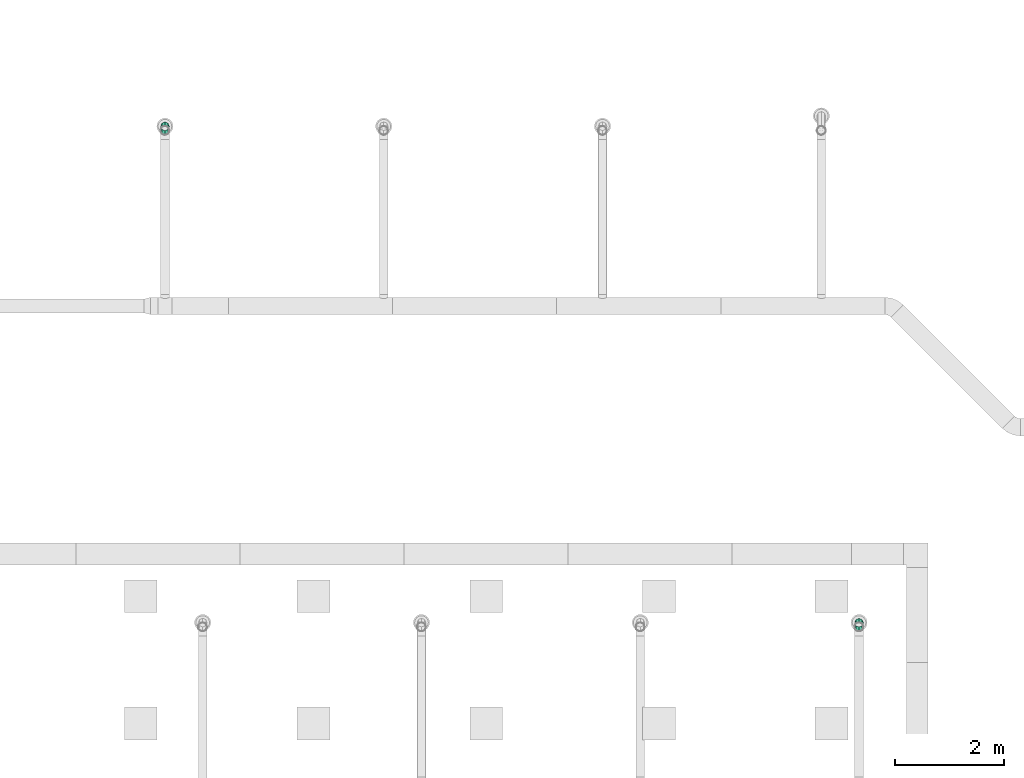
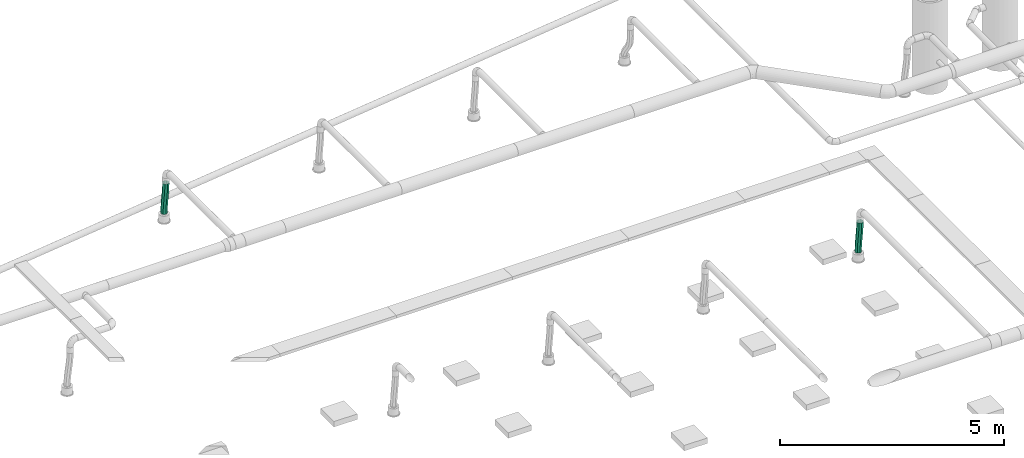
# One storey, part 242 of 374: 2 flow segments.
"""IFC2X3 building model written with IfcOpenShell, lengths in metres."""

from ifc_helpers import new_model, si_unit, direction, origin, place, context, subcontext, project, spatial, open_shell, surface_model, source, transform, mapped, element, save


model = new_model("IFC2X3")

# Units and contexts
model_context = context("Model", 3, precision=1e-05, world=origin(), true_north=direction((-0.4480736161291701, 0.8939966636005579)))
body_context = subcontext(model_context, "Body", "Model", "MODEL_VIEW")
ifc_project = project(units=[si_unit("LENGTHUNIT", "METRE"), si_unit("AREAUNIT", "SQUARE_METRE"), si_unit("VOLUMEUNIT", "CUBIC_METRE"), si_unit("PLANEANGLEUNIT", "RADIAN"), si_unit("THERMODYNAMICTEMPERATUREUNIT", "KELVIN"), si_unit("MASSUNIT", "GRAM", prefix="KILO"), si_unit("TIMEUNIT", "SECOND")], contexts=[model_context])

# Site, building, storey
site_placement = place(None, origin())
site = spatial("IfcSite", under=ifc_project, at=site_placement, Name="Site 1", CompositionType="ELEMENT")
building_placement = place(site_placement, origin())
building = spatial("IfcBuilding", under=site, at=building_placement, Name="Undefined", CompositionType="ELEMENT")
storey_placement = place(building_placement, origin())
storey = spatial("IfcBuildingStorey", under=building, at=storey_placement, Name="Rez de chauss\x8ee", CompositionType="ELEMENT", Elevation=0.0)

# Flow segments
shared_shape_1 = source(origin(), body_context, "Body", "SurfaceModel", [
    surface_model("IfcFaceBasedSurfaceModel", [(0.09425707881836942, -3.552713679e-15, 0.0), (0.05356602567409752, 0.04575228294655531, 0.0), (0.0, 0.0, 0.0), (0.03894014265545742, -0.04725143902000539, -1.1507813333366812e-06), (-0.05541274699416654, -0.04404153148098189, 0.001035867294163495), (-0.017993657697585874, -0.092506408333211, 0.0010617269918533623), (-0.11243304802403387, -0.08679100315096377, 0.002911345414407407), (-0.07622094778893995, -0.13616420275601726, 0.0029758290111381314), (-0.1707571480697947, -0.12862219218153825, 0.005426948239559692), (-0.13541835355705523, -0.17862411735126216, 0.00552835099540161), (-0.2300733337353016, -0.16991459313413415, 0.008379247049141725), (-0.19526250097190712, -0.22028544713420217, 0.008506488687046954), (-0.29006425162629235, -0.21105506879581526, 0.011560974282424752), (-0.2554300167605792, -0.26154748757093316, 0.011697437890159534), (-0.35040837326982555, -0.25243868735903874, 0.014761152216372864), (-0.3155975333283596, -0.30280953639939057, 0.014888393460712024), (-0.41078048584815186, -0.2944689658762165, 0.017765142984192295), (-0.3754416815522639, -0.34447088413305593, 0.017866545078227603), (-0.4708511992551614, -0.33755762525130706, 0.020354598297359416), (-0.43463909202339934, -0.3869308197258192, 0.02041908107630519), (-0.5302854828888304, -0.3821237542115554, 0.022307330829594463), (-0.49286639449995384, -0.43058863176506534, 0.022333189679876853), (-0.5887403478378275, -0.42859215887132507, 0.02339721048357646), (-0.5498002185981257, -0.4758436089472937, 0.023396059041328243), (-0.6458082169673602, -0.47734273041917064, 0.02339487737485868), (-0.605117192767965, -0.5230950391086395, 0.023394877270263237), (0.025061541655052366, 0.07834277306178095, -0.04329419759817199), (-0.027779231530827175, 0.033211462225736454, -0.043293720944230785), (-0.08256193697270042, -0.010327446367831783, -0.04226904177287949), (-0.1390822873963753, -0.052700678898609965, -0.04040956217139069), (-0.1970446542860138, -0.09427144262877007, -0.037909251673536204), (-0.25614215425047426, -0.13541103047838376, -0.03496765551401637), (-0.3160599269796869, -0.17650115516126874, -0.03178974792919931), (-0.3764772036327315, -0.2179351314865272, -0.028585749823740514), (-0.4370680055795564, -0.2601182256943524, -0.0255710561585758), (-0.49750044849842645, -0.3034673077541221, -0.022966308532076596), (-0.5574346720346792, -0.34840966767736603, -0.020997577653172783), (-0.6165195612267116, -0.3953806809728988, -0.0198965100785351), (-0.6743126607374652, -0.4447522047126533, -0.019899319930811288), (0.025441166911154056, 0.0786804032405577, -0.10452143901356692), (-0.028124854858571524, 0.03292812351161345, -0.10452143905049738), (-0.08353760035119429, -0.011113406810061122, -0.10348557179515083), (-0.1405579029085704, -0.05386287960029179, -0.10161009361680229), (-0.19888200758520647, -0.09569407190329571, -0.09909449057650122), (-0.2581982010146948, -0.13698647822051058, -0.09614219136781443), (-0.31818912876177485, -0.1781269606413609, -0.0929604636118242), (-0.37853325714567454, -0.21951058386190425, -0.08976028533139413), (-0.4389053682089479, -0.26154086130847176, -0.08675629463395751), (-0.49897607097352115, -0.304629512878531, -0.08416683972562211), (-0.5584103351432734, -0.3491956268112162, -0.08221410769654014), (-0.6168651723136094, -0.39566400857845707, -0.08112422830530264), (-0.673933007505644, -0.44441454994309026, -0.08112656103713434), (0.05448252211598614, 0.04656739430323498, -0.14781563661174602), (-0.0008344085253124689, -0.0006840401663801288, -0.14781678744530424), (-0.05776820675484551, -0.04593900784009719, -0.14675390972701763), (-0.11599549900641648, -0.08959680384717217, -0.1448398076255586), (-0.1751929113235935, -0.13205672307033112, -0.14228728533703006), (-0.23503706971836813, -0.17371806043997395, -0.1393091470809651), (-0.2952045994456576, -0.2149801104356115, -0.13611819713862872), (-0.35537212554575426, -0.25624216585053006, -0.1329272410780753), (-0.4152162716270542, -0.29790351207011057, -0.1299490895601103), (-0.47441366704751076, -0.340363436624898, -0.12739655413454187), (-0.5326409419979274, -0.3840212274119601, -0.12548244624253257), (-0.5895747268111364, -0.4292761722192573, -0.1244195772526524), (-0.6448916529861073, -0.4765275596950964, -0.1244207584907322), (0.09517357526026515, 0.0008151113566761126, -0.14781563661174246), (0.038105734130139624, -0.047935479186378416, -0.14781793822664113), (-0.020349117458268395, -0.09440388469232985, -0.1467280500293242), (-0.07978339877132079, -0.1389700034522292, -0.14477532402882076), (-0.13985411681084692, -0.18205864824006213, -0.14218588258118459), (-0.20022623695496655, -0.22408891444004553, -0.13918190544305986), (-0.260570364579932, -0.2654725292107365, -0.13598173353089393), (-0.3205612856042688, -0.3066130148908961, -0.13279999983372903), (-0.3798774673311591, -0.3479054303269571, -0.129847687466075), (-0.4382015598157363, -0.38973663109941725, -0.1273320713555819), (-0.4952218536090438, -0.4324861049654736, -0.12545658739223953), (-0.5506345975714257, -0.47652762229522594, -0.12442072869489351), (-0.604200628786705, -0.5222798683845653, -0.12442075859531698), (0.1236780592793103, -0.03177537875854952, -0.10452143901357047), (0.06588496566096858, -0.08114694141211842, -0.1045242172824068), (0.006800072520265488, -0.12811796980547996, -0.10342314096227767), (-0.05313415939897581, -0.17306032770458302, -0.10145441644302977), (-0.11356661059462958, -0.21640939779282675, -0.09884968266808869), (-0.1741574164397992, -0.25859247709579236, -0.09583500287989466), (-0.2345746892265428, -0.3000264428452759, -0.09263101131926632), (-0.29449245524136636, -0.3411165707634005, -0.08945309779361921), (-0.3535899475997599, -0.3822561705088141, -0.0865114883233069), (-0.4115523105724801, -0.42382694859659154, -0.08401116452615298), (-0.46807266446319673, -0.4662001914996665, -0.08215167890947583), (-0.522855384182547, -0.5097391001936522, -0.08112700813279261), (-0.5756961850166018, -0.5548703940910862, -0.08112656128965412), (0.12329843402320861, -0.03211300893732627, -0.04329419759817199), (0.0662305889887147, -0.08086360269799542, -0.0432964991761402), (0.0077757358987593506, -0.12733200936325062, -0.04220661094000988), (-0.05165854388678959, -0.1718981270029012, -0.04025388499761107), (-0.11172925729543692, -0.21498676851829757, -0.037664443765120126), (-0.17210136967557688, -0.2570170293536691, -0.03466046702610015), (-0.23244548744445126, -0.29840063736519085, -0.031460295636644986), (-0.2924364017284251, -0.3395411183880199, -0.02827856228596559), (-0.3517525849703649, -0.38083353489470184, -0.025326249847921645), (-0.41007668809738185, -0.42266474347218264, -0.022810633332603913), (-0.46709700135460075, -0.4654142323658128, -0.020935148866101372), (-0.5225097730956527, -0.5094557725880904, -0.01989928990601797), (-0.5760758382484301, -0.555208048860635, -0.019899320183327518)], [open_shell([[[0, 1, 2]], [[2, 3, 0]], [[3, 2, 4]], [[4, 5, 3]], [[5, 4, 6]], [[6, 7, 5]], [[7, 6, 8]], [[8, 9, 7]], [[9, 8, 10]], [[10, 11, 9]], [[11, 10, 12]], [[12, 13, 11]], [[13, 12, 14]], [[14, 15, 13]], [[15, 14, 16]], [[16, 17, 15]], [[17, 16, 18]], [[18, 19, 17]], [[19, 18, 20]], [[20, 21, 19]], [[21, 20, 22]], [[22, 23, 21]], [[23, 22, 24]], [[24, 25, 23]], [[1, 26, 27]], [[27, 2, 1]], [[2, 27, 28]], [[28, 4, 2]], [[4, 28, 29]], [[29, 6, 4]], [[6, 29, 30]], [[30, 8, 6]], [[8, 30, 31]], [[31, 10, 8]], [[10, 31, 32]], [[32, 12, 10]], [[12, 32, 33]], [[33, 14, 12]], [[14, 33, 34]], [[34, 16, 14]], [[16, 34, 35]], [[35, 18, 16]], [[18, 35, 36]], [[36, 20, 18]], [[20, 36, 37]], [[37, 22, 20]], [[22, 37, 38]], [[38, 24, 22]], [[26, 39, 40]], [[40, 27, 26]], [[27, 40, 41]], [[41, 28, 27]], [[28, 41, 42]], [[42, 29, 28]], [[29, 42, 43]], [[43, 30, 29]], [[30, 43, 44]], [[44, 31, 30]], [[31, 44, 45]], [[45, 32, 31]], [[32, 45, 46]], [[46, 33, 32]], [[33, 46, 47]], [[47, 34, 33]], [[34, 47, 48]], [[48, 35, 34]], [[35, 48, 49]], [[49, 36, 35]], [[36, 49, 50]], [[50, 37, 36]], [[37, 50, 51]], [[51, 38, 37]], [[39, 52, 53]], [[53, 40, 39]], [[40, 53, 54]], [[54, 41, 40]], [[41, 54, 55]], [[55, 42, 41]], [[42, 55, 56]], [[56, 43, 42]], [[43, 56, 57]], [[57, 44, 43]], [[44, 57, 58]], [[58, 45, 44]], [[45, 58, 59]], [[59, 46, 45]], [[46, 59, 60]], [[60, 47, 46]], [[47, 60, 61]], [[61, 48, 47]], [[48, 61, 62]], [[62, 49, 48]], [[49, 62, 63]], [[63, 50, 49]], [[50, 63, 64]], [[64, 51, 50]], [[52, 65, 66]], [[66, 53, 52]], [[53, 66, 67]], [[67, 54, 53]], [[54, 67, 68]], [[68, 55, 54]], [[55, 68, 69]], [[69, 56, 55]], [[56, 69, 70]], [[70, 57, 56]], [[57, 70, 71]], [[71, 58, 57]], [[58, 71, 72]], [[72, 59, 58]], [[59, 72, 73]], [[73, 60, 59]], [[60, 73, 74]], [[74, 61, 60]], [[61, 74, 75]], [[75, 62, 61]], [[62, 75, 76]], [[76, 63, 62]], [[63, 76, 77]], [[77, 64, 63]], [[65, 78, 79]], [[79, 66, 65]], [[66, 79, 80]], [[80, 67, 66]], [[67, 80, 81]], [[81, 68, 67]], [[68, 81, 82]], [[82, 69, 68]], [[69, 82, 83]], [[83, 70, 69]], [[70, 83, 84]], [[84, 71, 70]], [[71, 84, 85]], [[85, 72, 71]], [[72, 85, 86]], [[86, 73, 72]], [[73, 86, 87]], [[87, 74, 73]], [[74, 87, 88]], [[88, 75, 74]], [[75, 88, 89]], [[89, 76, 75]], [[76, 89, 90]], [[90, 77, 76]], [[78, 91, 92]], [[92, 79, 78]], [[79, 92, 93]], [[93, 80, 79]], [[80, 93, 94]], [[94, 81, 80]], [[81, 94, 95]], [[95, 82, 81]], [[82, 95, 96]], [[96, 83, 82]], [[83, 96, 97]], [[97, 84, 83]], [[84, 97, 98]], [[98, 85, 84]], [[85, 98, 99]], [[99, 86, 85]], [[86, 99, 100]], [[100, 87, 86]], [[87, 100, 101]], [[101, 88, 87]], [[88, 101, 102]], [[102, 89, 88]], [[89, 102, 103]], [[103, 90, 89]], [[91, 0, 3]], [[3, 92, 91]], [[92, 3, 5]], [[5, 93, 92]], [[93, 5, 7]], [[7, 94, 93]], [[94, 7, 9]], [[9, 95, 94]], [[95, 9, 11]], [[11, 96, 95]], [[96, 11, 13]], [[13, 97, 96]], [[97, 13, 15]], [[15, 98, 97]], [[98, 15, 17]], [[17, 99, 98]], [[99, 17, 19]], [[19, 100, 99]], [[100, 19, 21]], [[21, 101, 100]], [[101, 21, 23]], [[23, 102, 101]], [[102, 23, 25]], [[25, 103, 102]]])]),
])
flow_segment_1_placement = place(storey_placement, origin())
element("IfcFlowSegment", 1, at=flow_segment_1_placement, inside=storey, Name="Tube flexible", ObjectType="Tube flexible", context=body_context, shape_type="MappedRepresentation", body=[
    mapped(shared_shape_1, transform((26.923485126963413, 16.93339267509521, 3.4095708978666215), x_axis=(-0.24859097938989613, -0.6163532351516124, 0.7472022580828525), y_axis=(0.2910462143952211, 0.6882384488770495, 0.6645449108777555), z_axis=(-0.9238477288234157, 0.38267025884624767, 0.008297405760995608))),
])
shared_shape_2 = source(origin(), body_context, "Body", "SurfaceModel", [
    surface_model("IfcFaceBasedSurfaceModel", [(0.09425707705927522, 0.0, -8.8817842e-16), (0.05356602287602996, 0.04575228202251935, -8.8817842e-16), (0.0, 0.0, 0.0), (0.03894014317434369, -0.04725143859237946, -1.1508235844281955e-06), (-0.055412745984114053, -0.04404153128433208, 0.0010358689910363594), (-0.0179936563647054, -0.09250640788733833, 0.001061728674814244), (-0.11243304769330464, -0.08679100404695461, 0.0029113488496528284), (-0.07622094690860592, -0.13616420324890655, 0.0029758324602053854), (-0.1707571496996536, -0.12862219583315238, 0.005426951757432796), (-0.13541835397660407, -0.17862412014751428, 0.0055283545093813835), (-0.23007333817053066, -0.16991460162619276, 0.008379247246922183), (-0.19526250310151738, -0.22028545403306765, 0.0085064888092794), (-0.2900642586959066, -0.21105508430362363, 0.011560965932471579), (-0.25543002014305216, -0.26154750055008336, 0.011697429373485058), (-0.35040837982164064, -0.25243871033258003, 0.014761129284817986), (-0.3155975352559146, -0.3028095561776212, 0.014888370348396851), (-0.41078048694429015, -0.294468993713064, 0.017765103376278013), (-0.37544167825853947, -0.34447090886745, 0.01786650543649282), (-0.4708511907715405, -0.33755765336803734, 0.020354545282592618), (-0.4346390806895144, -0.3869308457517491, 0.020419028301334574), (-0.5302854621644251, -0.3821237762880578, 0.022307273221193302), (-0.49286637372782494, -0.43058865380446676, 0.022333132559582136), (-0.5887403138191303, -0.4285921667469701, 0.02339716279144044), (-0.5498001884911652, -0.47584362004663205, 0.02339601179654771), (-0.645808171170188, -0.4773427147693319, 0.02339485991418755), (-0.6051171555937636, -0.5230950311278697, 0.02339485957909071), (0.025061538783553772, 0.0783427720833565, -0.0432941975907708), (-0.027779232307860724, 0.03321146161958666, -0.04329372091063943), (-0.0825619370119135, -0.010327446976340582, -0.04226904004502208), (-0.13908228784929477, -0.052700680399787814, -0.040409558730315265), (-0.1970446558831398, -0.09427144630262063, -0.037909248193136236), (-0.25614215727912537, -0.13541103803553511, -0.0349676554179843), (-0.31605993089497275, -0.1765011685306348, -0.03178975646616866), (-0.3764772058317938, -0.21793515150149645, -0.028585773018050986), (-0.43706800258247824, -0.2601182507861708, -0.025571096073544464), (-0.49750043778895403, -0.30346733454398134, -0.02296636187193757), (-0.5574346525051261, -0.34840969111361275, -0.020997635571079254), (-0.6165195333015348, -0.3953806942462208, -0.019896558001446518), (-0.6743126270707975, -0.4447521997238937, -0.019899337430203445), (0.025441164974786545, 0.0786804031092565, -0.10452143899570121), (-0.028124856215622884, 0.03292812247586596, -0.10452143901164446), (-0.08353760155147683, -0.011113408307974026, -0.10348557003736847), (-0.14055790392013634, -0.05386288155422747, -0.10161009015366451), (-0.19888200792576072, -0.09569407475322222, -0.0990944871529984), (-0.2581981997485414, -0.13698648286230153, -0.09614219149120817), (-0.3181891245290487, -0.1781269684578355, -0.09296047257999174), (-0.37853324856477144, -0.21951059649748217, -0.0897603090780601), (-0.4389053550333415, -0.26154087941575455, -0.08675633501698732), (-0.4989760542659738, -0.3046295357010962, -0.08416689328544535), (-0.5584103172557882, -0.34919565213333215, -0.0822141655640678), (-0.6168651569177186, -0.3956640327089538, -0.08112427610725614), (-0.6739329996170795, -0.44441456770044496, -0.08112657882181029), (0.054482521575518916, 0.046567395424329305, -0.14781563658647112), (-0.00083440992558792, -0.0006840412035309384, -0.14781678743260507), (-0.057768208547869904, -0.04593900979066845, -0.14675390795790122), (-0.11599550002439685, -0.08959680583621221, -0.144839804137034), (-0.1751929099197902, -0.13205672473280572, -0.14228728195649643), (-0.23503706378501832, -0.17371806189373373, -0.13930914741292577), (-0.29520458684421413, -0.2149801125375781, -0.1361182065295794), (-0.35537210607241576, -0.2562421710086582, -0.1329272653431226), (-0.4152162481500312, -0.2979035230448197, -0.12994913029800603), (-0.4744136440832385, -0.34036345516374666, -0.1273966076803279), (-0.5326409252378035, -0.3840212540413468, -0.12548250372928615), (-0.5895747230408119, -0.4292762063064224, -0.12441962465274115), (-0.6448916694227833, -0.4765275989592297, -0.12442077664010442), (0.09517357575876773, 0.0008151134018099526, -0.14781563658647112), (0.03810573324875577, -0.04793547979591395, -0.14781793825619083), (-0.020349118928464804, -0.0944038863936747, -0.14672804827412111), (-0.07978339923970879, -0.13897000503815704, -0.14477532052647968), (-0.13985411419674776, -0.18205864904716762, -0.1421858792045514), (-0.2002262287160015, -0.22408891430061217, -0.13918190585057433), (-0.2605703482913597, -0.2654725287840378, -0.1359817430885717), (-0.32056126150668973, -0.3066130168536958, -0.13280002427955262), (-0.379877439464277, -0.3479054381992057, -0.12984772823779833), (-0.43820153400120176, -0.3897366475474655, -0.1273321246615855), (-0.4952218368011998, -0.4324861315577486, -0.12545664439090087), (-0.5506345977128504, -0.47652765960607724, -0.1244207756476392), (-0.6042006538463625, -0.522279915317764, -0.12442077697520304), (0.12367805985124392, -0.031775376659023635, -0.10452143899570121), (0.0658849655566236, -0.0811469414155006, -0.10452421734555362), (0.006800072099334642, -0.1281179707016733, -0.10342313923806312), (-0.053134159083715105, -0.17306032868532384, -0.10145441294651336), (-0.11356660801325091, -0.21640939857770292, -0.0988496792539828), (-0.17415740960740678, -0.25859247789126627, -0.09583500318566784), (-0.23457467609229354, -0.3000264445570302, -0.09263102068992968), (-0.2944924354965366, -0.3411165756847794, -0.08945312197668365), (-0.353589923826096, -0.38225618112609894, -0.0865115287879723), (-0.4115522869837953, -0.42382696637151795, -0.08401121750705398), (-0.46807264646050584, -0.46620021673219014, -0.08215173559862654), (-0.5228553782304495, -0.5097391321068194, -0.08112705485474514), (-0.5756961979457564, -0.5548704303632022, -0.08112657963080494), (0.12329843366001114, -0.0321130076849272, -0.0432941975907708), (0.0662305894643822, -0.08086360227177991, -0.043296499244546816), (0.007775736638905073, -0.1273320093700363, -0.04220660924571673), (-0.05165854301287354, -0.17189812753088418, -0.04025388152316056), (-0.11172925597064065, -0.21498677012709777, -0.037664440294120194), (-0.1721013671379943, -0.2570170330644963, -0.034660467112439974), (-0.23244548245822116, -0.29840064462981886, -0.03146030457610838), (-0.2924363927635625, -0.3395411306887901, -0.028278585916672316), (-0.35175257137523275, -0.38083355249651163, -0.025326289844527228), (-0.41007667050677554, -0.422664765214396, -0.022810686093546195), (-0.46709698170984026, -0.4654142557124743, -0.02093520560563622), (-0.5225097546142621, -0.5094557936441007, -0.019899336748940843), (-0.5760758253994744, -0.5552080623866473, -0.019899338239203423)], [open_shell([[[0, 1, 2]], [[2, 3, 0]], [[3, 2, 4]], [[4, 5, 3]], [[5, 4, 6]], [[6, 7, 5]], [[7, 6, 8]], [[8, 9, 7]], [[9, 8, 10]], [[10, 11, 9]], [[11, 10, 12]], [[12, 13, 11]], [[13, 12, 14]], [[14, 15, 13]], [[15, 14, 16]], [[16, 17, 15]], [[17, 16, 18]], [[18, 19, 17]], [[19, 18, 20]], [[20, 21, 19]], [[21, 20, 22]], [[22, 23, 21]], [[23, 22, 24]], [[24, 25, 23]], [[1, 26, 27]], [[27, 2, 1]], [[2, 27, 28]], [[28, 4, 2]], [[4, 28, 29]], [[29, 6, 4]], [[6, 29, 30]], [[30, 8, 6]], [[8, 30, 31]], [[31, 10, 8]], [[10, 31, 32]], [[32, 12, 10]], [[12, 32, 33]], [[33, 14, 12]], [[14, 33, 34]], [[34, 16, 14]], [[16, 34, 35]], [[35, 18, 16]], [[18, 35, 36]], [[36, 20, 18]], [[20, 36, 37]], [[37, 22, 20]], [[22, 37, 38]], [[38, 24, 22]], [[26, 39, 40]], [[40, 27, 26]], [[27, 40, 41]], [[41, 28, 27]], [[28, 41, 42]], [[42, 29, 28]], [[29, 42, 43]], [[43, 30, 29]], [[30, 43, 44]], [[44, 31, 30]], [[31, 44, 45]], [[45, 32, 31]], [[32, 45, 46]], [[46, 33, 32]], [[33, 46, 47]], [[47, 34, 33]], [[34, 47, 48]], [[48, 35, 34]], [[35, 48, 49]], [[49, 36, 35]], [[36, 49, 50]], [[50, 37, 36]], [[37, 50, 51]], [[51, 38, 37]], [[39, 52, 53]], [[53, 40, 39]], [[40, 53, 54]], [[54, 41, 40]], [[41, 54, 55]], [[55, 42, 41]], [[42, 55, 56]], [[56, 43, 42]], [[43, 56, 57]], [[57, 44, 43]], [[44, 57, 58]], [[58, 45, 44]], [[45, 58, 59]], [[59, 46, 45]], [[46, 59, 60]], [[60, 47, 46]], [[47, 60, 61]], [[61, 48, 47]], [[48, 61, 62]], [[62, 49, 48]], [[49, 62, 63]], [[63, 50, 49]], [[50, 63, 64]], [[64, 51, 50]], [[52, 65, 66]], [[66, 53, 52]], [[53, 66, 67]], [[67, 54, 53]], [[54, 67, 68]], [[68, 55, 54]], [[55, 68, 69]], [[69, 56, 55]], [[56, 69, 70]], [[70, 57, 56]], [[57, 70, 71]], [[71, 58, 57]], [[58, 71, 72]], [[72, 59, 58]], [[59, 72, 73]], [[73, 60, 59]], [[60, 73, 74]], [[74, 61, 60]], [[61, 74, 75]], [[75, 62, 61]], [[62, 75, 76]], [[76, 63, 62]], [[63, 76, 77]], [[77, 64, 63]], [[65, 78, 79]], [[79, 66, 65]], [[66, 79, 80]], [[80, 67, 66]], [[67, 80, 81]], [[81, 68, 67]], [[68, 81, 82]], [[82, 69, 68]], [[69, 82, 83]], [[83, 70, 69]], [[70, 83, 84]], [[84, 71, 70]], [[71, 84, 85]], [[85, 72, 71]], [[72, 85, 86]], [[86, 73, 72]], [[73, 86, 87]], [[87, 74, 73]], [[74, 87, 88]], [[88, 75, 74]], [[75, 88, 89]], [[89, 76, 75]], [[76, 89, 90]], [[90, 77, 76]], [[78, 91, 92]], [[92, 79, 78]], [[79, 92, 93]], [[93, 80, 79]], [[80, 93, 94]], [[94, 81, 80]], [[81, 94, 95]], [[95, 82, 81]], [[82, 95, 96]], [[96, 83, 82]], [[83, 96, 97]], [[97, 84, 83]], [[84, 97, 98]], [[98, 85, 84]], [[85, 98, 99]], [[99, 86, 85]], [[86, 99, 100]], [[100, 87, 86]], [[87, 100, 101]], [[101, 88, 87]], [[88, 101, 102]], [[102, 89, 88]], [[89, 102, 103]], [[103, 90, 89]], [[91, 0, 3]], [[3, 92, 91]], [[92, 3, 5]], [[5, 93, 92]], [[93, 5, 7]], [[7, 94, 93]], [[94, 7, 9]], [[9, 95, 94]], [[95, 9, 11]], [[11, 96, 95]], [[96, 11, 13]], [[13, 97, 96]], [[97, 13, 15]], [[15, 98, 97]], [[98, 15, 17]], [[17, 99, 98]], [[99, 17, 19]], [[19, 100, 99]], [[100, 19, 21]], [[21, 101, 100]], [[101, 21, 23]], [[23, 102, 101]], [[102, 23, 25]], [[25, 103, 102]]])]),
])
flow_segment_2_placement = place(storey_placement, origin())
element("IfcFlowSegment", 2, at=flow_segment_2_placement, inside=storey, Name="Tube flexible", ObjectType="Tube flexible", context=body_context, shape_type="MappedRepresentation", body=[
    mapped(shared_shape_2, transform((14.233432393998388, 26.008094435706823, 3.40957090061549), x_axis=(-0.24859097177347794, -0.6163532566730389, 0.7472022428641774), y_axis=(0.2910462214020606, 0.6882384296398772, 0.6645449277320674), z_axis=(-0.9238477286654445, 0.38267025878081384, 0.00829742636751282))),
])

save(model, "model.ifc")
